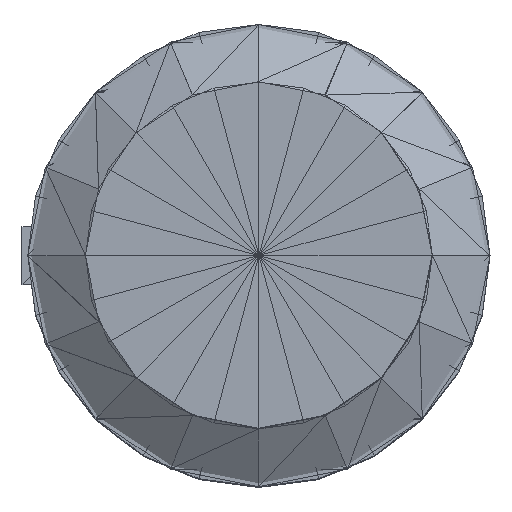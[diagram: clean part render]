
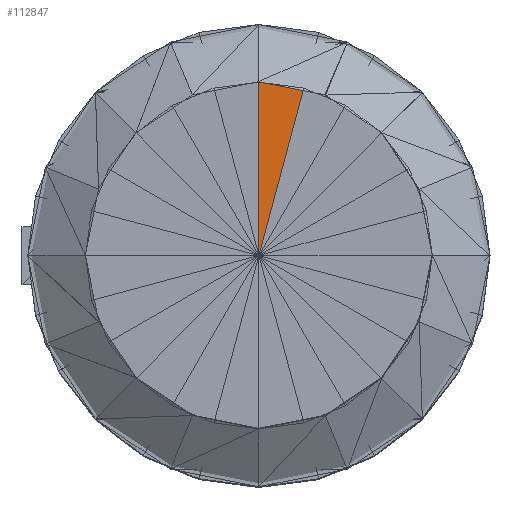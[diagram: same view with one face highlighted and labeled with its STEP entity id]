
A CAD part, top view. The second image highlights one B-rep face of the part: STEP entity #112847.
In plain terms, the highlighted planar face has unit normal (0, 0, 1).
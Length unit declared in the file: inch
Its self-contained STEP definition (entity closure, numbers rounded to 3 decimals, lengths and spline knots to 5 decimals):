
#112816=CARTESIAN_POINT('',(0.02015,0.09049,0.31588));
#112817=DIRECTION('',(0.,0.,1.));
#112818=DIRECTION('',(1.,0.,0.));
#112819=AXIS2_PLACEMENT_3D('',#112816,#112817,#112818);
#112820=PLANE('',#112819);
#112821=CARTESIAN_POINT('',(0.02426,0.09049,0.31588));
#112822=VERTEX_POINT('',#112821);
#112823=CARTESIAN_POINT('',(0.,0.09369,0.31588));
#112824=VERTEX_POINT('',#112823);
#112825=CARTESIAN_POINT('',(0.02426,0.09049,0.31588));
#112826=DIRECTION('',(-0.991,0.131,0.));
#112827=VECTOR('',#112826,0.02447);
#112828=LINE('',#112825,#112827);
#112829=EDGE_CURVE('',#112822,#112824,#112828,.T.);
#112830=ORIENTED_EDGE('',*,*,#112829,.T.);
#112831=CARTESIAN_POINT('',(0.,-0.00006,0.31586));
#112832=VERTEX_POINT('',#112831);
#112833=CARTESIAN_POINT('',(0.,-0.00006,0.31586));
#112834=DIRECTION('',(0.,1.,0.));
#112835=VECTOR('',#112834,0.09375);
#112836=LINE('',#112833,#112835);
#112837=EDGE_CURVE('',#112832,#112824,#112836,.T.);
#112838=ORIENTED_EDGE('',*,*,#112837,.F.);
#112839=CARTESIAN_POINT('',(-0.,-0.00006,0.31586));
#112840=DIRECTION('',(0.259,0.966,0.));
#112841=VECTOR('',#112840,0.09374);
#112842=LINE('',#112839,#112841);
#112843=EDGE_CURVE('',#112832,#112822,#112842,.T.);
#112844=ORIENTED_EDGE('',*,*,#112843,.T.);
#112845=EDGE_LOOP('',(#112830,#112838,#112844));
#112846=FACE_BOUND('',#112845,.T.);
#112847=ADVANCED_FACE('',(#112846),#112820,.T.);
